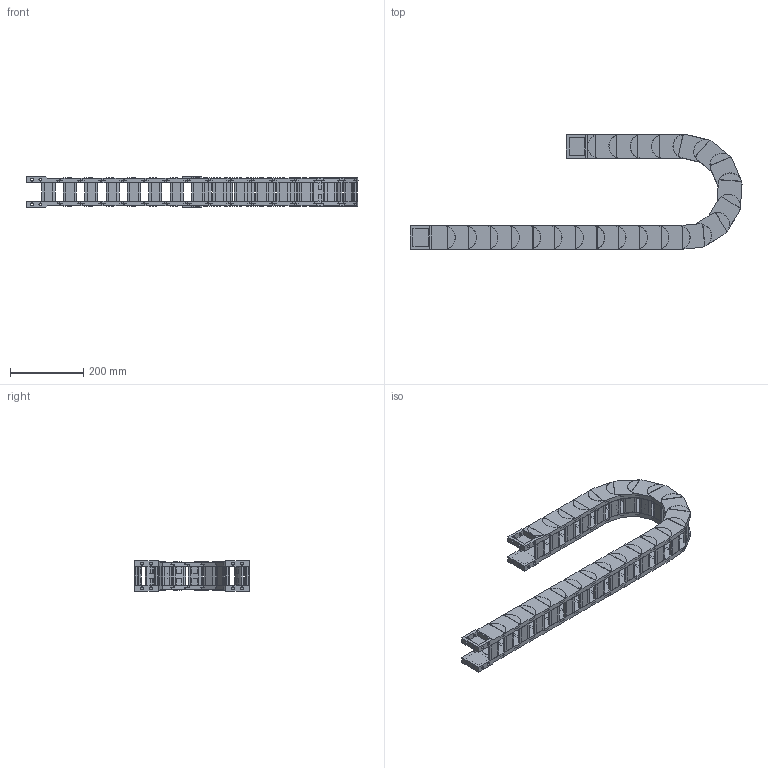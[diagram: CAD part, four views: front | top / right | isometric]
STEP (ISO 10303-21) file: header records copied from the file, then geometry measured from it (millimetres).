
FILE_DESCRIPTION((''),'2;1');
FILE_NAME('HD45-R125-ZPT_ASM','2022-06-20T19:18:46',('admin'),(''),'CREO PARAMETRIC BY PTC INC, 2021164','CREO PARAMETRIC BY PTC INC, 2021164','');
FILE_SCHEMA(('CONFIG_CONTROL_DESIGN','GEOMETRIC_VALIDATION_PROPERTIES_MIM'));
Length unit declared in the file: millimetre
Products named in the file (6): HD45-585; 45-500001; HD45_ASM; H45-T1-G; H45-T2-G; HD45-R125-ZPT_ASM
Assembly tree (28 placements, depth 3):
  HD45-R125-ZPT_ASM
    HD45_ASM  x22
      HD45-585
      45-500001
    H45-T1-G
    H45-T2-G
    45-500001  x2
Bounding box: 909.22 x 314.65 x 83 mm (x, y, z)
Volume: 3347635 mm3; surface area: 1192596 mm2
Topology: 96 solids, 96 shells, 1866 faces, 4994 edges, 3420 vertices
Faces by surface type: plane 1226, cylinder 640
Entity records: 8654 total; most frequent: CARTESIAN_POINT 1396, DIRECTION 1386, ORIENTED_EDGE 1276, EDGE_CURVE 638, AXIS2_PLACEMENT_3D 482, VERTEX_POINT 432, VECTOR 422, LINE 422
